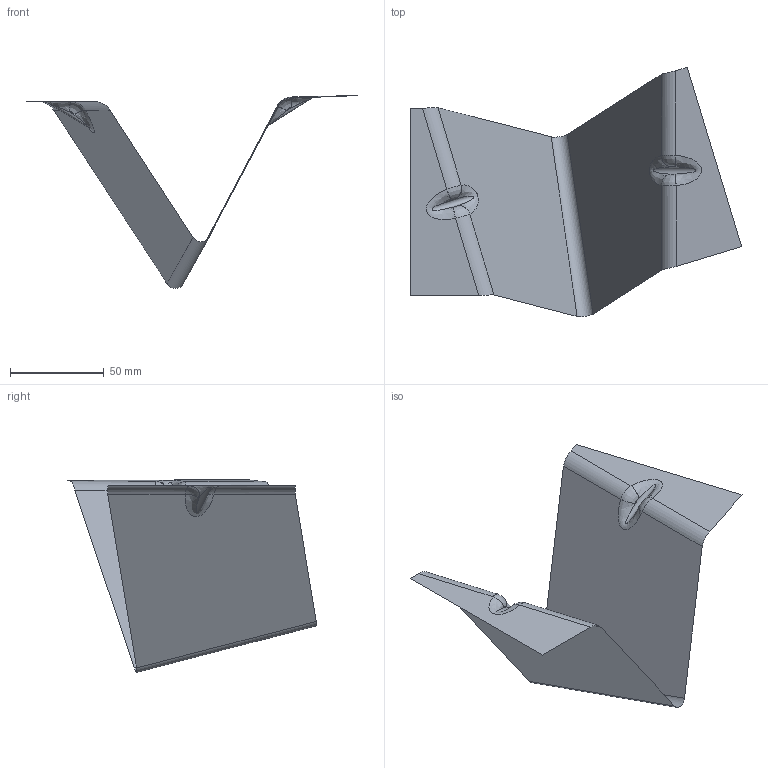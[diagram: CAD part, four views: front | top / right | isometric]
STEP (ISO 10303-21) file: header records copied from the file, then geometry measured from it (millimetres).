
FILE_DESCRIPTION(('CATIA V5 STEP Exchange'),'2;1');
FILE_NAME('C:\_Andres\UNIVERSIDAD\IQS\ASIGNATURAS\DAO\EXF\EXF-16172c\2inicio\Sarasa_Prat_Ej03_v32.stp','2017-03-05T19:32:32+00:00',('none'),('none'),'CATIA Version 5-6 Release 2014 SP1 HF18','CATIA V5 STEP AP203','none');
FILE_SCHEMA(('CONFIG_CONTROL_DESIGN'));
Length unit declared in the file: millimetre
Products named in the file (1): Sarasa_Prat_Ej03_v32
Bounding box: 176.76 x 132.99 x 102.88 mm (x, y, z)
Surface area: 26843 mm2 (no closed solid volume)
Topology: 0 solids, 1 shells, 31 faces, 78 edges, 48 vertices
Faces by surface type: cylinder 15, plane 8, bspline 8
Entity records: 2545 total; most frequent: CARTESIAN_POINT 1872, ORIENTED_EDGE 140, DIRECTION 90, EDGE_CURVE 78, VERTEX_POINT 48, VECTOR 40, LINE 40, ADVANCED_FACE 31
